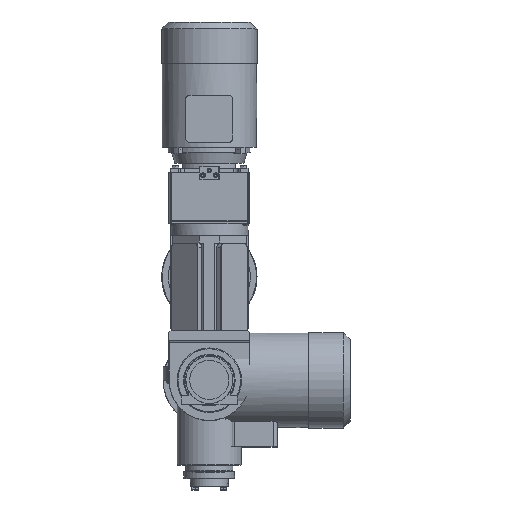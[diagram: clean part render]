
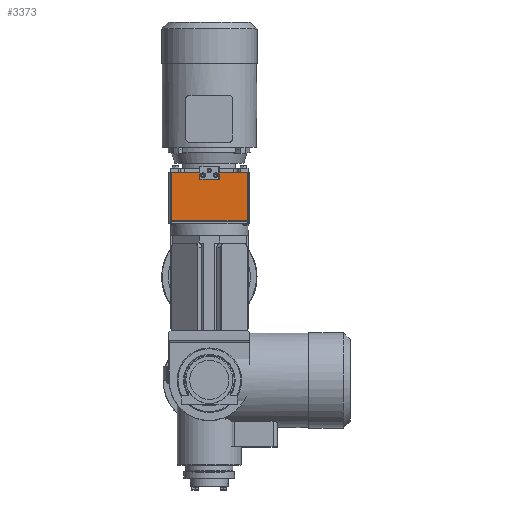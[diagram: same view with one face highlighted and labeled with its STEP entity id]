
A CAD part, top view. The second image highlights one B-rep face of the part: STEP entity #3373.
In plain terms, the highlighted planar face has unit normal (0, 0, 1) as drawn and (0, 1, 0) by its records, which use the part's own axes.
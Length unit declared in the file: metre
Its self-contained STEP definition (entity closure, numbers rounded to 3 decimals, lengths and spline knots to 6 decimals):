
#3373 = ADVANCED_FACE( '', ( #5650 ), #5651, .T. );
#5650 = FACE_OUTER_BOUND( '', #9309, .T. );
#5651 = PLANE( '', #9310 );
#9309 = EDGE_LOOP( '', ( #15098, #15099, #15100, #15101 ) );
#9310 = AXIS2_PLACEMENT_3D( '', #15102, #15103, #15104 );
#15098 = ORIENTED_EDGE( '', *, *, #21921, .T. );
#15099 = ORIENTED_EDGE( '', *, *, #21938, .T. );
#15100 = ORIENTED_EDGE( '', *, *, #21939, .T. );
#15101 = ORIENTED_EDGE( '', *, *, #21940, .T. );
#15102 = CARTESIAN_POINT( '', ( -0.09, 0.352, -0.4043 ) );
#15103 = DIRECTION( '', ( 0., 1., 0. ) );
#15104 = DIRECTION( '', ( 0., 0., -1. ) );
#21921 = EDGE_CURVE( '', #25455, #25452, #25456, .T. );
#21938 = EDGE_CURVE( '', #25452, #25480, #25483, .T. );
#21939 = EDGE_CURVE( '', #25480, #25484, #25485, .T. );
#21940 = EDGE_CURVE( '', #25484, #25455, #25486, .T. );
#25452 = VERTEX_POINT( '', #31910 );
#25455 = VERTEX_POINT( '', #31915 );
#25456 = LINE( '', #31916, #31917 );
#25480 = VERTEX_POINT( '', #31955 );
#25483 = LINE( '', #31960, #31961 );
#25484 = VERTEX_POINT( '', #31962 );
#25485 = LINE( '', #31963, #31964 );
#25486 = LINE( '', #31965, #31966 );
#31910 = CARTESIAN_POINT( '', ( -0.088, 0.352, -0.5168 ) );
#31915 = CARTESIAN_POINT( '', ( 0.088, 0.352, -0.5168 ) );
#31916 = CARTESIAN_POINT( '', ( -0.045, 0.352, -0.5168 ) );
#31917 = VECTOR( '', #38258, 1. );
#31955 = CARTESIAN_POINT( '', ( -0.088, 0.352, -0.4048 ) );
#31960 = CARTESIAN_POINT( '', ( -0.088, 0.352, -0.4043 ) );
#31961 = VECTOR( '', #38275, 1. );
#31962 = CARTESIAN_POINT( '', ( 0.088, 0.352, -0.4048 ) );
#31963 = CARTESIAN_POINT( '', ( -0.045, 0.352, -0.4048 ) );
#31964 = VECTOR( '', #38276, 1. );
#31965 = CARTESIAN_POINT( '', ( 0.088, 0.352, -0.4043 ) );
#31966 = VECTOR( '', #38277, 1. );
#38258 = DIRECTION( '', ( -1., 0., 0. ) );
#38275 = DIRECTION( '', ( 0., 0., 1. ) );
#38276 = DIRECTION( '', ( 1., 0., 0. ) );
#38277 = DIRECTION( '', ( 0., 0., -1. ) );
